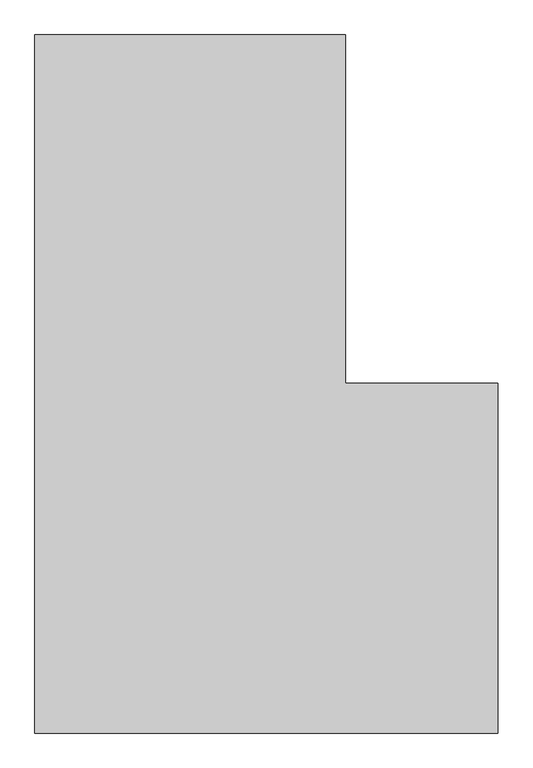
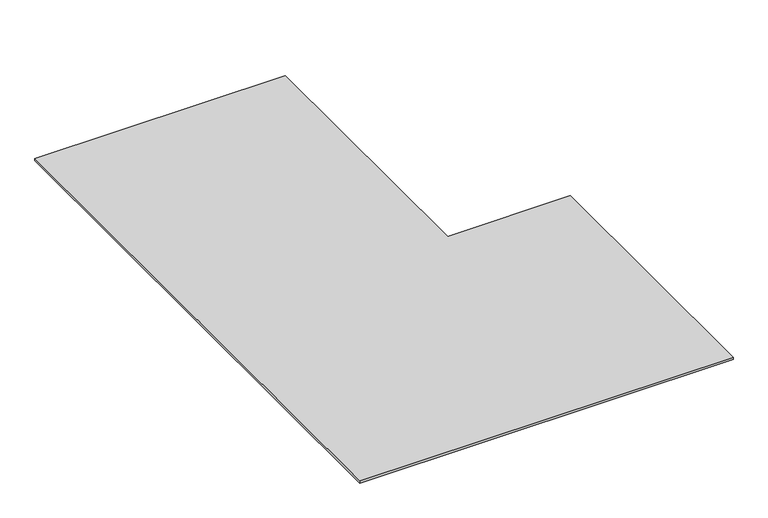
"""IFC4 building model written with IfcOpenShell, lengths in millimetres: proxy geometry, Фиброцементная плита LATONIT окрашенная в массе_1 прямоугольное отверстие : 10 мм."""

from ifc_helpers import new_model, si_unit, frame, origin, place, context, project, spatial, polyline, outline, extrude, source, transform, mapped, element, save


def generic_models_bc7fca1e(model_context):
    return source(origin(), model_context, "Body", "SweptSolid", [
        extrude(outline(polyline([(1500.0, 0.0), (0.0, 0.0), (0.0, 2260.0), (1006.5, 2260.0), (1006.5, 1132.0), (1500.0, 1132.0), (1500.0, 0.0)])), frame((0.0, 0.0, 240.0), z_axis=(0.0, 0.0, 1.0), x_axis=(1.0, 0.0, 0.0)), (0.0, 0.0, 1.0), 10.0),
    ])


if __name__ == "__main__":
    model = new_model("IFC4")
    model_context = context("Model", 3, world=origin())
    ifc_project = project(units=[si_unit("LENGTHUNIT", "METRE", prefix="MILLI")], contexts=[model_context])
    site = spatial("IfcSite", under=ifc_project)
    building = spatial("IfcBuilding", under=site)
    placement = place(None, origin())
    generic_models_shape = generic_models_bc7fca1e(model_context)
    element("IfcBuildingElementProxy", 1, Name="Фиброцементная плита LATONIT окрашенная в массе_1 прямоугольное отверстие : 10 мм", ObjectType="Фиброцементная плита LATONIT окрашенная в массе_1 прямоугольное отверстие : 10 мм", at=placement, inside=building, context=model_context, shape_type="MappedRepresentation", body=[
        mapped(generic_models_shape, transform((0.0, 0.0, 0.0), x_axis=(1.0, 0.0, 0.0), y_axis=(0.0, 1.0, 0.0), z_axis=(0.0, 0.0, 1.0))),
    ])
    save(model, "model.ifc")
